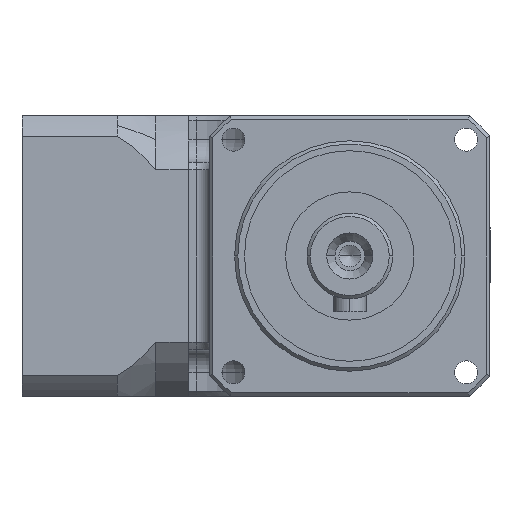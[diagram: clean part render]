
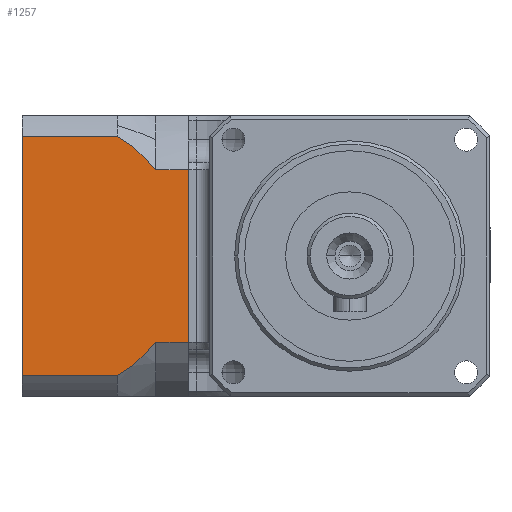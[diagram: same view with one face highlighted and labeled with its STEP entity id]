
A CAD part, left-side view. The second image highlights one B-rep face of the part: STEP entity #1257.
In plain terms, the highlighted planar face has unit normal (-1, 0, 0) as drawn and (0, 0, 1) by its records, which use the part's own axes.
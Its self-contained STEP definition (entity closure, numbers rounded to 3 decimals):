
#1040 = EDGE_CURVE ( 'NONE', #5790, #28642, #29263, .T. ) ;
#1244 = VERTEX_POINT ( 'NONE', #45733 ) ;
#1257 = ADVANCED_FACE ( 'NONE', ( #34432 ), #45280, .T. ) ;
#1291 = VERTEX_POINT ( 'NONE', #44556 ) ;
#2232 = DIRECTION ( 'NONE',  ( 1., 0., 0. ) ) ;
#2462 = LINE ( 'NONE', #27942, #11005 ) ;
#3406 = EDGE_CURVE ( 'NONE', #40156, #30709, #2462, .T. ) ;
#4111 = VERTEX_POINT ( 'NONE', #11544 ) ;
#4878 = AXIS2_PLACEMENT_3D ( 'NONE', #7040, #6988, #6939 ) ;
#5790 = VERTEX_POINT ( 'NONE', #20149 ) ;
#6164 = EDGE_CURVE ( 'NONE', #1291, #1244, #34303, .T. ) ;
#6553 = ORIENTED_EDGE ( 'NONE', *, *, #44898, .T. ) ;
#6939 = DIRECTION ( 'NONE',  ( 1., 0., 0. ) ) ;
#6988 = DIRECTION ( 'NONE',  ( 0., 0., 1. ) ) ;
#7040 = CARTESIAN_POINT ( 'NONE',  ( 0., 13.117, 21.3 ) ) ;
#7249 = EDGE_CURVE ( 'NONE', #28642, #23977, #21639, .T. ) ;
#8127 = AXIS2_PLACEMENT_3D ( 'NONE', #45915, #23948, #2232 ) ;
#9369 = VECTOR ( 'NONE', #12859, 1000. ) ;
#9828 = CARTESIAN_POINT ( 'NONE',  ( -13.089, 34.7, 21.3 ) ) ;
#11005 = VECTOR ( 'NONE', #28173, 1000. ) ;
#11544 = CARTESIAN_POINT ( 'NONE',  ( 18.174, 23.887, 21.3 ) ) ;
#12859 = DIRECTION ( 'NONE',  ( 0., -1., 0. ) ) ;
#14249 = EDGE_CURVE ( 'NONE', #23977, #1291, #32089, .T. ) ;
#14689 = CARTESIAN_POINT ( 'NONE',  ( -18.174, 9.4, 21.3 ) ) ;
#14796 = LINE ( 'NONE', #31595, #21048 ) ;
#15513 = DIRECTION ( 'NONE',  ( 0., 1., 0. ) ) ;
#15556 = ORIENTED_EDGE ( 'NONE', *, *, #6164, .T. ) ;
#15893 = CARTESIAN_POINT ( 'NONE',  ( -13.089, 4.7, 21.3 ) ) ;
#16199 = EDGE_LOOP ( 'NONE', ( #38710, #15556, #6553, #45932, #29916, #46543, #31647, #36392 ) ) ;
#16616 = CARTESIAN_POINT ( 'NONE',  ( 21.3, 34.7, 21.3 ) ) ;
#18800 = CARTESIAN_POINT ( 'NONE',  ( 13.089, 4.7, 21.3 ) ) ;
#19470 = AXIS2_PLACEMENT_3D ( 'NONE', #45215, #45380, #44923 ) ;
#19537 = VECTOR ( 'NONE', #15513, 1000. ) ;
#20137 = LINE ( 'NONE', #41913, #9369 ) ;
#20149 = CARTESIAN_POINT ( 'NONE',  ( 13.089, 29.7, 21.3 ) ) ;
#20429 = DIRECTION ( 'NONE',  ( -1., 0., 0. ) ) ;
#21048 = VECTOR ( 'NONE', #35188, 1000. ) ;
#21639 = LINE ( 'NONE', #16616, #30174 ) ;
#23948 = DIRECTION ( 'NONE',  ( 0., 0., 1. ) ) ;
#23977 = VERTEX_POINT ( 'NONE', #9828 ) ;
#27539 = CIRCLE ( 'NONE', #8127, 21.126 ) ;
#27942 = CARTESIAN_POINT ( 'NONE',  ( 15., 9.4, 21.3 ) ) ;
#28173 = DIRECTION ( 'NONE',  ( 1., 0., 0. ) ) ;
#28642 = VERTEX_POINT ( 'NONE', #35374 ) ;
#29263 = LINE ( 'NONE', #18800, #19537 ) ;
#29916 = ORIENTED_EDGE ( 'NONE', *, *, #33777, .F. ) ;
#30174 = VECTOR ( 'NONE', #20429, 1000. ) ;
#30709 = VERTEX_POINT ( 'NONE', #44011 ) ;
#30921 = VECTOR ( 'NONE', #34112, 1000. ) ;
#31595 = CARTESIAN_POINT ( 'NONE',  ( -18.174, 4.7, 21.3 ) ) ;
#31647 = ORIENTED_EDGE ( 'NONE', *, *, #1040, .T. ) ;
#32089 = LINE ( 'NONE', #15893, #30921 ) ;
#33777 = EDGE_CURVE ( 'NONE', #4111, #30709, #20137, .T. ) ;
#33823 = EDGE_CURVE ( 'NONE', #4111, #5790, #27539, .T. ) ;
#34112 = DIRECTION ( 'NONE',  ( 0., -1., 0. ) ) ;
#34303 = CIRCLE ( 'NONE', #4878, 21.126 ) ;
#34432 = FACE_OUTER_BOUND ( 'NONE', #16199, .T. ) ;
#35188 = DIRECTION ( 'NONE',  ( 0., -1., 0. ) ) ;
#35374 = CARTESIAN_POINT ( 'NONE',  ( 13.089, 34.7, 21.3 ) ) ;
#36392 = ORIENTED_EDGE ( 'NONE', *, *, #7249, .T. ) ;
#38710 = ORIENTED_EDGE ( 'NONE', *, *, #14249, .T. ) ;
#40156 = VERTEX_POINT ( 'NONE', #14689 ) ;
#41913 = CARTESIAN_POINT ( 'NONE',  ( 18.174, 33.686, 21.3 ) ) ;
#44011 = CARTESIAN_POINT ( 'NONE',  ( 18.174, 9.4, 21.3 ) ) ;
#44556 = CARTESIAN_POINT ( 'NONE',  ( -13.089, 29.7, 21.3 ) ) ;
#44898 = EDGE_CURVE ( 'NONE', #1244, #40156, #14796, .T. ) ;
#44923 = DIRECTION ( 'NONE',  ( 1., 0., 0. ) ) ;
#45215 = CARTESIAN_POINT ( 'NONE',  ( 21.3, 4.7, 21.3 ) ) ;
#45280 = PLANE ( 'NONE',  #19470 ) ;
#45380 = DIRECTION ( 'NONE',  ( 0., 0., 1. ) ) ;
#45733 = CARTESIAN_POINT ( 'NONE',  ( -18.174, 23.887, 21.3 ) ) ;
#45915 = CARTESIAN_POINT ( 'NONE',  ( 0., 13.117, 21.3 ) ) ;
#45932 = ORIENTED_EDGE ( 'NONE', *, *, #3406, .T. ) ;
#46543 = ORIENTED_EDGE ( 'NONE', *, *, #33823, .T. ) ;
